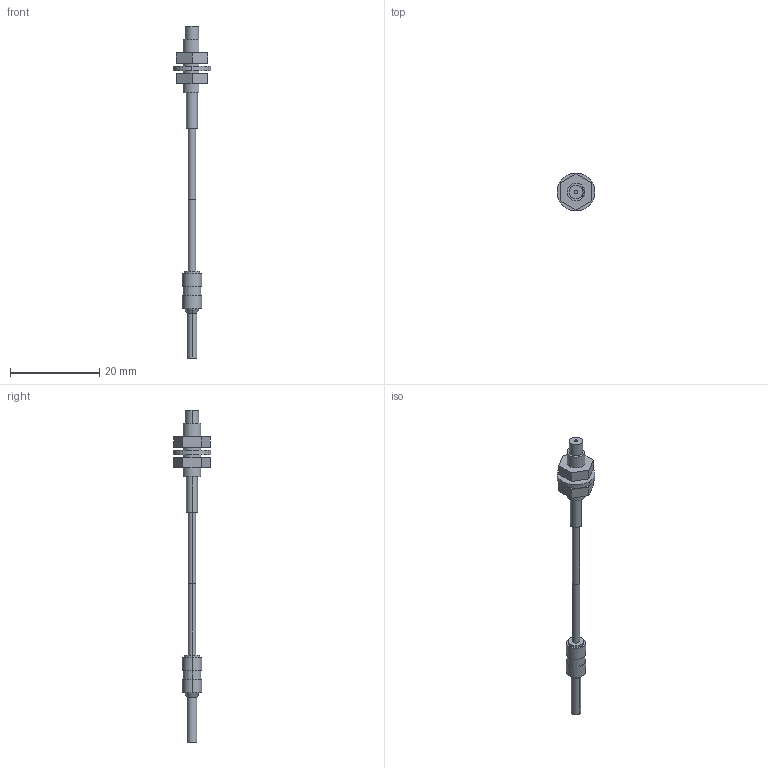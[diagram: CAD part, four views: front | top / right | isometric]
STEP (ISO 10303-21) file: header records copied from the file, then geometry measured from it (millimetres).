
FILE_DESCRIPTION (( 'STEP AP203' ), '1' );
FILE_NAME ('FT-H20W-M1.STEP', '2005-11-09T08:25:52', ( '' ), ( '' ), 'SwSTEP 2.0', 'SolidWorks 2004073', '' );
FILE_SCHEMA (( 'CONFIG_CONTROL_DESIGN' ));
Length unit declared in the file: millimetre
Products named in the file (1): FT-H20W-M1
Bounding box: 8.5 x 8.5 x 74.5 mm (x, y, z)
Volume: 614.7 mm3; surface area: 1067.4 mm2
Topology: 5 solids, 5 shells, 63 faces, 131 edges, 86 vertices
Faces by surface type: plane 32, cylinder 29, cone 2
Entity records: 1774 total; most frequent: DIRECTION 319, CARTESIAN_POINT 281, ORIENTED_EDGE 262, EDGE_CURVE 131, AXIS2_PLACEMENT_3D 124, VERTEX_POINT 86, EDGE_LOOP 77, VECTOR 71
